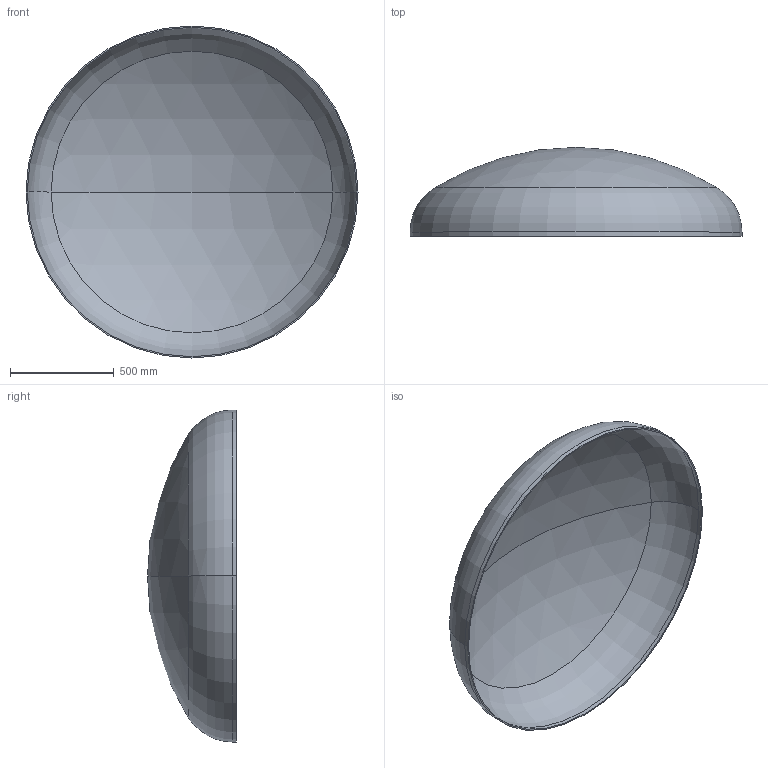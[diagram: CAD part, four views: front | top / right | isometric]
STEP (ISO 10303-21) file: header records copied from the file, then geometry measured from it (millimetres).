
FILE_DESCRIPTION (( 'STEP AP203' ), '1' );
FILE_NAME ('DIN 28013 Korbbogenform_-_Boden DIN 28013 - 1600 x 20 - I - s=6.step', '2016-07-01T11:03:04', ( '' ), ( '' ), 'SwSTEP 2.0', 'SolidWorks 2013', '' );
FILE_SCHEMA (( 'CONFIG_CONTROL_DESIGN' ));
Length unit declared in the file: millimetre
Products named in the file (1): DIN 28013 Korbbogenform_-_Boden DIN 28013 - 1600 x 20 - I - s=6
Bounding box: 1600 x 428.6 x 1600 mm (x, y, z)
Volume: 17208925 mm3; surface area: 5766427.6 mm2
Topology: 1 solids, 1 shells, 13 faces, 24 edges, 14 vertices
Faces by surface type: torus 4, cylinder 4, sphere 4, plane 1
Entity records: 407 total; most frequent: DIRECTION 72, CARTESIAN_POINT 52, ORIENTED_EDGE 48, AXIS2_PLACEMENT_3D 34, EDGE_CURVE 24, CIRCLE 20, EDGE_LOOP 14, VERTEX_POINT 14
